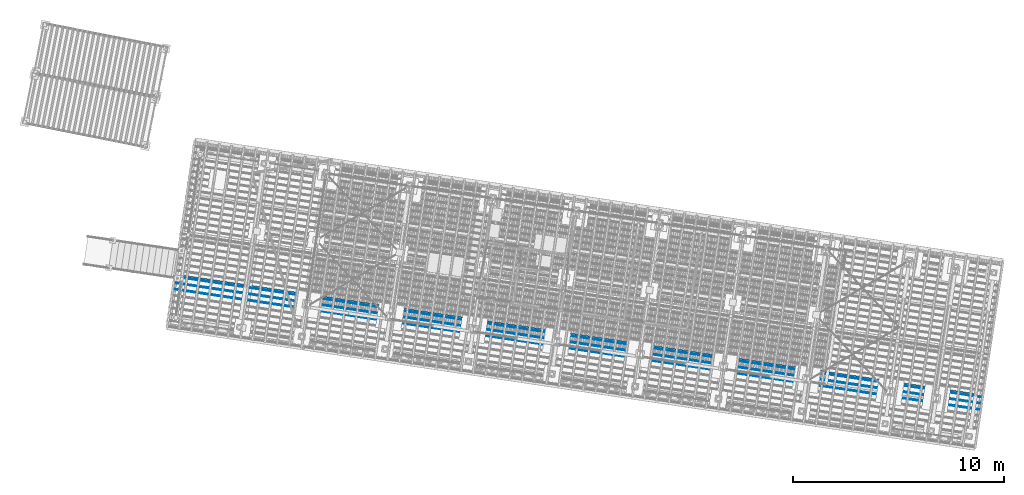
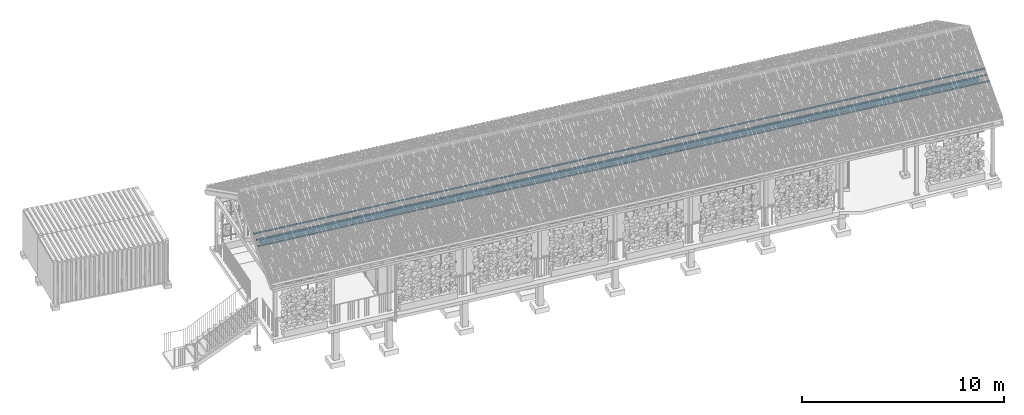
# One storey, part 78 of 131: 3 members, 1 beam, 1 element without a shape of its own.
"""IFC4 building model written with IfcOpenShell, lengths in metres."""

from ifc_helpers import new_model, si_unit, direction, frame, origin_with_axes, place, context, subcontext, project, spatial, rectangle, extrude, material, material_profile, profile_set, profile_usage, type_object, element, aggregate, save


model = new_model("IFC4")

# Units and contexts
model_context = context("Model", 3, precision=1e-05, world=origin_with_axes(), true_north=direction((0.0, 1.0)))
body_context = subcontext(model_context, "Body", "Model", "MODEL_VIEW")
ifc_project = project(units=[si_unit("VOLUMEUNIT", "CUBIC_METRE"), si_unit("LENGTHUNIT", "METRE"), si_unit("AREAUNIT", "SQUARE_METRE")], contexts=[model_context])

# Site, building, storey
site_placement = place(None, origin_with_axes())
site = spatial("IfcSite", under=ifc_project, at=site_placement, Name="Lares · Rua das Mercês · artigo 4771")
building_placement = place(site_placement, frame((15.0, 9.7, 14.65), z_axis=(0.0, 0.0, 1.0), x_axis=(0.989015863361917, -0.147809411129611, 0.0)))
building = spatial("IfcBuilding", under=site, at=building_placement, Name="Casa Sobreposta")
storey_placement = place(building_placement, origin_with_axes())
storey = spatial("IfcBuildingStorey", under=building, at=storey_placement, Name="00 · Habitação e estacionamento", Elevation=14.65)

# Roof, beam, members
ifc_material = material(Name="Madeira / Bauholz", Category="wood")
roof_placement = place(storey_placement, origin_with_axes())
roof = element("IfcRoof", 1, at=roof_placement, inside=storey, material=ifc_material, Name="Cobertura de telha · duas águas 30 graus", PredefinedType="GABLE_ROOF")
ifc_material_profile_1 = material_profile(ifc_material, rectangle(XDim=0.14, YDim=0.22))
ifc_profile_set_1 = profile_set([ifc_material_profile_1], Name="TIMBER0.140x0.220")
ifc_profile_usage_1 = profile_usage(ifc_profile_set_1)
beam_type = type_object("IfcBeamType", Name="TIMBER0.140x0.220 / timber", PredefinedType="NOTDEFINED", material=ifc_profile_set_1)
beam_placement = place(roof_placement, frame((-6.05, 0.55, 4.34450815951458), z_axis=(1.0, 0.0, 0.0), x_axis=(0.0, -1.0, 0.0)))
beam = element("IfcBeam", 2, at=beam_placement, type_object=beam_type, material=ifc_profile_usage_1, Name="Cobertura · terça", context=body_context, shape_type="SweptSolid", body=[
    extrude(rectangle(XDim=0.14, YDim=0.22), origin_with_axes(), (0.0, 0.0, 1.0), 38.1),
])
ifc_material_profile_2 = material_profile(ifc_material, rectangle(XDim=0.045, YDim=0.06))
ifc_profile_set_2 = profile_set([ifc_material_profile_2], Name="TIMBER0.045x0.060")
ifc_profile_usage_2 = profile_usage(ifc_profile_set_2)
member_type = type_object("IfcMemberType", Name="TIMBER0.045x0.060 / timber", PredefinedType="NOTDEFINED", material=ifc_profile_set_2)
member_1_placement = place(roof_placement, frame((-6.4, -0.0999999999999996, 4.57323048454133), z_axis=(1.0, 0.0, 0.0), x_axis=(0.0, -1.0, 0.0)))
member_1 = element("IfcMember", 3, at=member_1_placement, type_object=member_type, material=ifc_profile_usage_2, Name="Cobertura · ripa ventilada", context=body_context, shape_type="SweptSolid", body=[
    extrude(rectangle(XDim=0.045, YDim=0.06), origin_with_axes(), (0.0, 0.0, 1.0), 38.8),
])
ifc_profile_usage_3 = profile_usage(ifc_profile_set_2)
member_2_placement = place(roof_placement, frame((-6.4, 0.200000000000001, 4.74643556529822), z_axis=(1.0, 0.0, 0.0), x_axis=(0.0, -1.0, 0.0)))
member_2 = element("IfcMember", 4, at=member_2_placement, type_object=member_type, material=ifc_profile_usage_3, Name="Cobertura · ripa ventilada", context=body_context, shape_type="SweptSolid", body=[
    extrude(rectangle(XDim=0.045, YDim=0.06), origin_with_axes(), (0.0, 0.0, 1.0), 38.8),
])
ifc_profile_usage_4 = profile_usage(ifc_profile_set_2)
member_3_placement = place(roof_placement, frame((-6.4, 0.5, 4.9196406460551), z_axis=(1.0, 0.0, 0.0), x_axis=(0.0, -1.0, 0.0)))
member_3 = element("IfcMember", 5, at=member_3_placement, type_object=member_type, material=ifc_profile_usage_4, Name="Cobertura · ripa ventilada", context=body_context, shape_type="SweptSolid", body=[
    extrude(rectangle(XDim=0.045, YDim=0.06), origin_with_axes(), (0.0, 0.0, 1.0), 38.8),
])
aggregate(roof, [beam, member_1, member_2, member_3])

save(model, "model.ifc")
